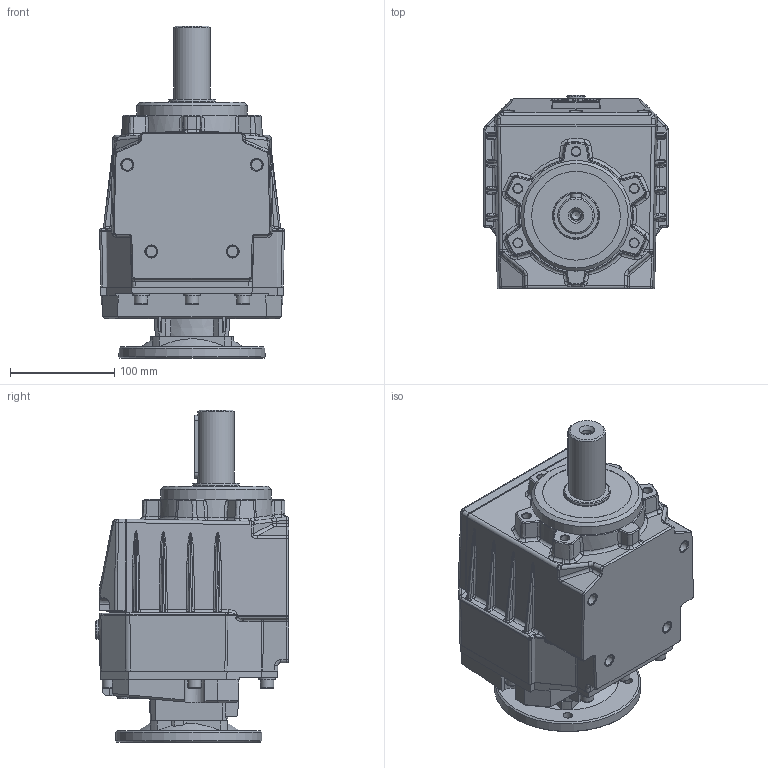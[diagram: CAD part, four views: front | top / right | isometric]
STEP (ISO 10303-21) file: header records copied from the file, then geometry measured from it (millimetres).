
FILE_DESCRIPTION( ( 'Unknown' ), '1' );
FILE_NAME( 'E:/services/configuratordownloads/customers/HYDROMEC/COASSIALI/download/7EE445F8C239EC5AC8BDCE358314E/STEP/7EE445F8C239EC5AC8BDCE358314E.3d.stp', 'Unknown', ( 'Unknown' ), ( 'Unknown' ), 'PSStep 10.1', 'Unknown', ' ' );
FILE_SCHEMA( ( 'AUTOMOTIVE_DESIGN { 1 0 10303 214 1 1 1 1 }' ) );
Length unit declared in the file: millimetre
Products named in the file (1): C618800
Bounding box: 176.85 x 185 x 318 mm (x, y, z)
Volume: 5137390.5 mm3; surface area: 264881.3 mm2
Topology: 1 solids, 21 shells, 1196 faces, 2847 edges, 1758 vertices
Faces by surface type: plane 563, cylinder 300, bspline 196, cone 78, torus 33, sphere 22, extrusion 4
Full cylindrical faces by diameter (mm): 6 x6, 6.5 x1, 6.647 x4, 7.175 x6, 8.376 x6, 8.5 x8, 9 x4, 10 x6, 10.106 x4, 10.5 x1, 11.3 x1, 11.445 x2, 12.75 x8, 13.5 x1, 18 x1, 19 x1, 22 x1, 35 x2, 35.5 x1, 45 x1, 47 x2, 85 x1, 95 x1, 106 x1
Entity records: 54383 total; most frequent: CARTESIAN_POINT 19682, ORIENTED_EDGE 5248, DIRECTION 4658, EDGE_CURVE 2624, VERTEX_POINT 1694, AXIS2_PLACEMENT_3D 1637, EDGE_LOOP 1436, VECTOR 1384
